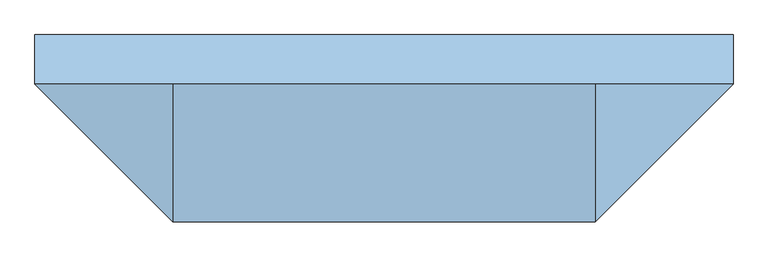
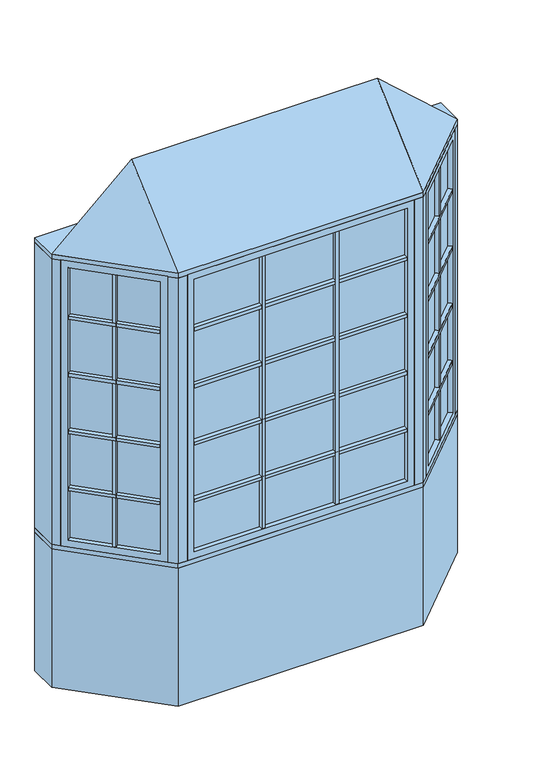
"""IFC4 building model written with IfcOpenShell, lengths in millimetres: window geometry, Pollard_Windows_Tudor Casement Bows and Bays : AML-BAY 45 AFR0616-10-500_GC."""

from ifc_helpers import new_model, si_unit, frame, origin, origin_with_axes, place, context, project, spatial, polyline, outline, extrude, faceted_brep, source, transform, mapped, element, save


def window_0feb7d22(model_context):
    return source(origin(), model_context, "Body", "SolidModel", [
        extrude(outline(polyline([(709.3614193, -437.1108753), (693.8050701, -421.5545261), (1001.616171, -113.7434252), (1017.1725202, -129.2997743), (709.3614193, -437.1108753)])), frame((0.0, 0.0, 1110.998), z_axis=(0.0, 0.0, 1.0), x_axis=(1.0, 0.0, 0.0)), (0.0, 0.0, 1.0), 18.0),
        extrude(outline(polyline([(690.2129677, -417.9624236), (674.6566185, -402.4060744), (982.4677194, -94.5949735), (998.0240686, -110.1513227), (690.2129677, -417.9624236)])), frame((0.0, 0.0, 1110.998), z_axis=(0.0, 0.0, 1.0), x_axis=(1.0, 0.0, 0.0)), (0.0, 0.0, 1.0), 18.0),
        extrude(outline(polyline([(709.3614193, -437.1108753), (693.8050701, -421.5545261), (1001.616171, -113.7434252), (1017.1725202, -129.2997743), (709.3614193, -437.1108753)])), frame((0.0, 0.0, 1430.998), z_axis=(0.0, 0.0, 1.0), x_axis=(1.0, 0.0, 0.0)), (0.0, 0.0, 1.0), 18.0),
        extrude(outline(polyline([(690.2129677, -417.9624236), (674.6566185, -402.4060744), (982.4677194, -94.5949735), (998.0240686, -110.1513227), (690.2129677, -417.9624236)])), frame((0.0, 0.0, 1430.998), z_axis=(0.0, 0.0, 1.0), x_axis=(1.0, 0.0, 0.0)), (0.0, 0.0, 1.0), 18.0),
        extrude(outline(polyline([(709.3614193, -437.1108753), (693.8050701, -421.5545261), (1001.616171, -113.7434252), (1017.1725202, -129.2997743), (709.3614193, -437.1108753)])), frame((0.0, 0.0, 1750.998), z_axis=(0.0, 0.0, 1.0), x_axis=(1.0, 0.0, 0.0)), (0.0, 0.0, 1.0), 18.0),
        extrude(outline(polyline([(690.2129677, -417.9624236), (674.6566185, -402.4060744), (982.4677194, -94.5949735), (998.0240686, -110.1513227), (690.2129677, -417.9624236)])), frame((0.0, 0.0, 1750.998), z_axis=(0.0, 0.0, 1.0), x_axis=(1.0, 0.0, 0.0)), (0.0, 0.0, 1.0), 18.0),
        extrude(outline(polyline([(709.3614193, -437.1108753), (693.8050701, -421.5545261), (1001.616171, -113.7434252), (1017.1725202, -129.2997743), (709.3614193, -437.1108753)])), frame((0.0, 0.0, 2070.998), z_axis=(0.0, 0.0, 1.0), x_axis=(1.0, 0.0, 0.0)), (0.0, 0.0, 1.0), 18.0),
        extrude(outline(polyline([(690.2129677, -417.9624236), (674.6566185, -402.4060744), (982.4677194, -94.5949735), (998.0240686, -110.1513227), (690.2129677, -417.9624236)])), frame((0.0, 0.0, 2070.998), z_axis=(0.0, 0.0, 1.0), x_axis=(1.0, 0.0, 0.0)), (0.0, 0.0, 1.0), 18.0),
        extrude(outline(polyline([(854.0745816, -261.2850146), (869.6309308, -276.8413638), (856.9030087, -289.5692858), (841.3466595, -274.0129366), (854.0745816, -261.2850146)])), frame((0.0, 0.0, 835.8628), z_axis=(0.0, 0.0, 1.0), x_axis=(1.0, 0.0, 0.0)), (0.0, 0.0, 1.0), 1528.2704),
        extrude(outline(polyline([(850.4824791, -257.6929121), (837.7545571, -270.4208342), (822.1982079, -254.864485), (834.92613, -242.1365629), (850.4824791, -257.6929121)])), frame((0.0, 0.0, 835.8628), z_axis=(0.0, 0.0, 1.0), x_axis=(1.0, 0.0, 0.0)), (0.0, 0.0, 1.0), 1528.2704),
        extrude(outline(polyline([(1010.5964271, -104.763169), (684.824814, -430.5347822), (681.2327115, -426.9426797), (1007.0043247, -101.1710666), (1010.5964271, -104.763169)])), frame((0.0, 0.0, 823.1628), z_axis=(0.0, 0.0, 1.0), x_axis=(1.0, 0.0, 0.0)), (0.0, 0.0, 1.0), 1553.6704),
        faceted_brep([(1001.616171, -113.7434252, 835.8628), (1019.5766833, -131.7039374, 835.8628), (1019.5766833, -131.7039374, 2364.1332), (1001.616171, -113.7434252, 2364.1332), (1007.0043247, -101.1710666, 823.1628), (1010.5964271, -104.763169, 823.1628), (1010.5964271, -104.763169, 2376.8332), (1007.0043247, -101.1710666, 2376.8332), (980.0635563, -92.1908105, 835.8628), (998.0240686, -110.1513227, 835.8628), (998.0240686, -110.1513227, 2364.1332), (980.0635563, -92.1908105, 2364.1332), (1044.9369265, -106.3436941, 799.998), (1005.4237996, -66.8305672, 799.998), (1005.4237996, -66.8305672, 2399.998), (1044.9369265, -106.3436941, 2399.998), (711.7655823, -439.5150383, 2364.1332), (693.8050701, -421.5545261, 2364.1332), (684.824814, -430.5347822, 2376.8332), (681.2327115, -426.9426797, 2376.8332), (690.2129677, -417.9624236, 2364.1332), (672.2524554, -400.0019114, 2364.1332), (646.8922121, -425.3621547, 2399.998), (686.4053391, -464.8752816, 2399.998), (711.7655823, -439.5150383, 835.8628), (693.8050701, -421.5545261, 835.8628), (684.824814, -430.5347822, 823.1628), (681.2327115, -426.9426797, 823.1628), (690.2129677, -417.9624236, 835.8628), (672.2524554, -400.0019114, 835.8628), (646.8922121, -425.3621547, 799.998), (686.4053391, -464.8752816, 799.998)], [[[0, 1, 2, 3]], [[4, 5, 6, 7]], [[8, 9, 10, 11]], [[12, 13, 14, 15]], [[3, 2, 16, 17]], [[7, 6, 18, 19]], [[11, 10, 20, 21]], [[15, 14, 22, 23]], [[17, 16, 24, 25]], [[19, 18, 26, 27]], [[21, 20, 28, 29]], [[23, 22, 30, 31]], [[25, 24, 1, 0]], [[5, 26, 18, 6], [3, 17, 25, 0]], [[27, 26, 5, 4]], [[7, 19, 27, 4], [9, 28, 20, 10]], [[29, 28, 9, 8]], [[13, 30, 22, 14], [11, 21, 29, 8]], [[31, 30, 13, 12]], [[15, 23, 31, 12], [1, 24, 16, 2]]]),
        extrude(outline(polyline([(204.6285333, -474.8306207), (204.6285333, -496.8306207), (186.6285333, -496.8306207), (186.6285333, -474.8306207), (204.6285333, -474.8306207)])), frame((0.0, 0.0, 835.8628), z_axis=(0.0, 0.0, 1.0), x_axis=(1.0, 0.0, 0.0)), (0.0, 0.0, 1.0), 1528.2704),
        extrude(outline(polyline([(204.6285333, -469.7506207), (186.6285333, -469.7506207), (186.6285333, -447.7506207), (204.6285333, -447.7506207), (204.6285333, -469.7506207)])), frame((0.0, 0.0, 835.8628), z_axis=(0.0, 0.0, 1.0), x_axis=(1.0, 0.0, 0.0)), (0.0, 0.0, 1.0), 1528.2704),
        extrude(outline(polyline([(-186.6285333, -474.8306207), (-186.6285333, -496.8306207), (-204.6285333, -496.8306207), (-204.6285333, -474.8306207), (-186.6285333, -474.8306207)])), frame((0.0, 0.0, 835.8628), z_axis=(0.0, 0.0, 1.0), x_axis=(1.0, 0.0, 0.0)), (0.0, 0.0, 1.0), 1528.2704),
        extrude(outline(polyline([(-186.6285333, -469.7506207), (-204.6285333, -469.7506207), (-204.6285333, -447.7506207), (-186.6285333, -447.7506207), (-186.6285333, -469.7506207)])), frame((0.0, 0.0, 835.8628), z_axis=(0.0, 0.0, 1.0), x_axis=(1.0, 0.0, 0.0)), (0.0, 0.0, 1.0), 1528.2704),
        extrude(outline(polyline([(-565.1852, -496.8306207), (-565.1852, -474.8306207), (565.1852, -474.8306207), (565.1852, -496.8306207), (-565.1852, -496.8306207)])), frame((0.0, 0.0, 1110.998), z_axis=(0.0, 0.0, 1.0), x_axis=(1.0, 0.0, 0.0)), (0.0, 0.0, 1.0), 18.0),
        extrude(outline(polyline([(-565.1852, -469.7506207), (-565.1852, -447.7506207), (565.1852, -447.7506207), (565.1852, -469.7506207), (-565.1852, -469.7506207)])), frame((0.0, 0.0, 1110.998), z_axis=(0.0, 0.0, 1.0), x_axis=(1.0, 0.0, 0.0)), (0.0, 0.0, 1.0), 18.0),
        extrude(outline(polyline([(-565.1852, -496.8306207), (-565.1852, -474.8306207), (565.1852, -474.8306207), (565.1852, -496.8306207), (-565.1852, -496.8306207)])), frame((0.0, 0.0, 1430.998), z_axis=(0.0, 0.0, 1.0), x_axis=(1.0, 0.0, 0.0)), (0.0, 0.0, 1.0), 18.0),
        extrude(outline(polyline([(-565.1852, -469.7506207), (-565.1852, -447.7506207), (565.1852, -447.7506207), (565.1852, -469.7506207), (-565.1852, -469.7506207)])), frame((0.0, 0.0, 1430.998), z_axis=(0.0, 0.0, 1.0), x_axis=(1.0, 0.0, 0.0)), (0.0, 0.0, 1.0), 18.0),
        extrude(outline(polyline([(-565.1852, -496.8306207), (-565.1852, -474.8306207), (565.1852, -474.8306207), (565.1852, -496.8306207), (-565.1852, -496.8306207)])), frame((0.0, 0.0, 1750.998), z_axis=(0.0, 0.0, 1.0), x_axis=(1.0, 0.0, 0.0)), (0.0, 0.0, 1.0), 18.0),
        extrude(outline(polyline([(-565.1852, -469.7506207), (-565.1852, -447.7506207), (565.1852, -447.7506207), (565.1852, -469.7506207), (-565.1852, -469.7506207)])), frame((0.0, 0.0, 1750.998), z_axis=(0.0, 0.0, 1.0), x_axis=(1.0, 0.0, 0.0)), (0.0, 0.0, 1.0), 18.0),
        extrude(outline(polyline([(-1017.1725202, -129.2997743), (-1001.616171, -113.7434252), (-693.8050701, -421.5545261), (-709.3614193, -437.1108753), (-1017.1725202, -129.2997743)])), frame((0.0, 0.0, 1110.998), z_axis=(0.0, 0.0, 1.0), x_axis=(1.0, 0.0, 0.0)), (0.0, 0.0, 1.0), 18.0),
        extrude(outline(polyline([(-998.0240686, -110.1513227), (-982.4677194, -94.5949735), (-674.6566185, -402.4060744), (-690.2129677, -417.9624236), (-998.0240686, -110.1513227)])), frame((0.0, 0.0, 1110.998), z_axis=(0.0, 0.0, 1.0), x_axis=(1.0, 0.0, 0.0)), (0.0, 0.0, 1.0), 18.0),
        extrude(outline(polyline([(-1017.1725202, -129.2997743), (-1001.616171, -113.7434252), (-693.8050701, -421.5545261), (-709.3614193, -437.1108753), (-1017.1725202, -129.2997743)])), frame((0.0, 0.0, 1430.998), z_axis=(0.0, 0.0, 1.0), x_axis=(1.0, 0.0, 0.0)), (0.0, 0.0, 1.0), 18.0),
        extrude(outline(polyline([(-998.0240686, -110.1513227), (-982.4677194, -94.5949735), (-674.6566185, -402.4060744), (-690.2129677, -417.9624236), (-998.0240686, -110.1513227)])), frame((0.0, 0.0, 1430.998), z_axis=(0.0, 0.0, 1.0), x_axis=(1.0, 0.0, 0.0)), (0.0, 0.0, 1.0), 18.0),
        extrude(outline(polyline([(-1017.1725202, -129.2997743), (-1001.616171, -113.7434252), (-693.8050701, -421.5545261), (-709.3614193, -437.1108753), (-1017.1725202, -129.2997743)])), frame((0.0, 0.0, 1750.998), z_axis=(0.0, 0.0, 1.0), x_axis=(1.0, 0.0, 0.0)), (0.0, 0.0, 1.0), 18.0),
        extrude(outline(polyline([(-998.0240686, -110.1513227), (-982.4677194, -94.5949735), (-674.6566185, -402.4060744), (-690.2129677, -417.9624236), (-998.0240686, -110.1513227)])), frame((0.0, 0.0, 1750.998), z_axis=(0.0, 0.0, 1.0), x_axis=(1.0, 0.0, 0.0)), (0.0, 0.0, 1.0), 18.0),
        extrude(outline(polyline([(-1017.1725202, -129.2997743), (-1001.616171, -113.7434252), (-693.8050701, -421.5545261), (-709.3614193, -437.1108753), (-1017.1725202, -129.2997743)])), frame((0.0, 0.0, 2070.998), z_axis=(0.0, 0.0, 1.0), x_axis=(1.0, 0.0, 0.0)), (0.0, 0.0, 1.0), 18.0),
        extrude(outline(polyline([(-998.0240686, -110.1513227), (-982.4677194, -94.5949735), (-674.6566185, -402.4060744), (-690.2129677, -417.9624236), (-998.0240686, -110.1513227)])), frame((0.0, 0.0, 2070.998), z_axis=(0.0, 0.0, 1.0), x_axis=(1.0, 0.0, 0.0)), (0.0, 0.0, 1.0), 18.0),
        extrude(outline(polyline([(-565.1852, -496.8306207), (-565.1852, -474.8306207), (565.1852, -474.8306207), (565.1852, -496.8306207), (-565.1852, -496.8306207)])), frame((0.0, 0.0, 2070.998), z_axis=(0.0, 0.0, 1.0), x_axis=(1.0, 0.0, 0.0)), (0.0, 0.0, 1.0), 18.0),
        extrude(outline(polyline([(-565.1852, -469.7506207), (-565.1852, -447.7506207), (565.1852, -447.7506207), (565.1852, -469.7506207), (-565.1852, -469.7506207)])), frame((0.0, 0.0, 2070.998), z_axis=(0.0, 0.0, 1.0), x_axis=(1.0, 0.0, 0.0)), (0.0, 0.0, 1.0), 18.0),
        extrude(outline(polyline([(-841.3466595, -274.0129366), (-856.9030087, -289.5692858), (-869.6309308, -276.8413638), (-854.0745816, -261.2850146), (-841.3466595, -274.0129366)])), frame((0.0, 0.0, 835.8628), z_axis=(0.0, 0.0, 1.0), x_axis=(1.0, 0.0, 0.0)), (0.0, 0.0, 1.0), 1528.2704),
        extrude(outline(polyline([(-837.7545571, -270.4208342), (-850.4824791, -257.6929121), (-834.92613, -242.1365629), (-822.1982079, -254.864485), (-837.7545571, -270.4208342)])), frame((0.0, 0.0, 835.8628), z_axis=(0.0, 0.0, 1.0), x_axis=(1.0, 0.0, 0.0)), (0.0, 0.0, 1.0), 1528.2704),
        extrude(outline(polyline([(-684.824814, -430.5347822), (-1010.5964271, -104.763169), (-1007.0043247, -101.1710666), (-681.2327115, -426.9426797), (-684.824814, -430.5347822)])), frame((0.0, 0.0, 823.1628), z_axis=(0.0, 0.0, 1.0), x_axis=(1.0, 0.0, 0.0)), (0.0, 0.0, 1.0), 1553.6704),
        faceted_brep([(-690.2129677, -417.9624236, 2364.1332), (-672.2524554, -400.0019114, 2364.1332), (-672.2524554, -400.0019114, 835.8628), (-690.2129677, -417.9624236, 835.8628), (-684.824814, -430.5347822, 2376.8332), (-681.2327115, -426.9426797, 2376.8332), (-681.2327115, -426.9426797, 823.1628), (-684.824814, -430.5347822, 823.1628), (-711.7655823, -439.5150383, 2364.1332), (-693.8050701, -421.5545261, 2364.1332), (-693.8050701, -421.5545261, 835.8628), (-711.7655823, -439.5150383, 835.8628), (-646.8922121, -425.3621547, 2399.998), (-686.4053391, -464.8752816, 2399.998), (-686.4053391, -464.8752816, 799.998), (-646.8922121, -425.3621547, 799.998), (-980.0635563, -92.1908105, 835.8628), (-998.0240686, -110.1513227, 835.8628), (-1007.0043247, -101.1710666, 823.1628), (-1010.5964271, -104.763169, 823.1628), (-1001.616171, -113.7434252, 835.8628), (-1019.5766833, -131.7039374, 835.8628), (-1044.9369265, -106.3436941, 799.998), (-1005.4237996, -66.8305672, 799.998), (-980.0635563, -92.1908105, 2364.1332), (-998.0240686, -110.1513227, 2364.1332), (-1007.0043247, -101.1710666, 2376.8332), (-1010.5964271, -104.763169, 2376.8332), (-1001.616171, -113.7434252, 2364.1332), (-1019.5766833, -131.7039374, 2364.1332), (-1044.9369265, -106.3436941, 2399.998), (-1005.4237996, -66.8305672, 2399.998)], [[[0, 1, 2, 3]], [[4, 5, 6, 7]], [[8, 9, 10, 11]], [[12, 13, 14, 15]], [[3, 2, 16, 17]], [[7, 6, 18, 19]], [[11, 10, 20, 21]], [[15, 14, 22, 23]], [[17, 16, 24, 25]], [[19, 18, 26, 27]], [[21, 20, 28, 29]], [[23, 22, 30, 31]], [[15, 23, 31, 12], [1, 24, 16, 2]], [[25, 24, 1, 0]], [[5, 26, 18, 6], [3, 17, 25, 0]], [[27, 26, 5, 4]], [[7, 19, 27, 4], [9, 28, 20, 10]], [[29, 28, 9, 8]], [[13, 30, 22, 14], [11, 21, 29, 8]], [[31, 30, 13, 12]]]),
        extrude(outline(polyline([(577.8852, -474.8306207), (-577.8852, -474.8306207), (-577.8852, -469.7506207), (577.8852, -469.7506207), (577.8852, -474.8306207)])), frame((0.0, 0.0, 823.1628), z_axis=(0.0, 0.0, 1.0), x_axis=(1.0, 0.0, 0.0)), (0.0, 0.0, 1.0), 1553.6704),
        faceted_brep([(565.1852, -474.8306207, 835.8628), (565.1852, -500.2306207, 835.8628), (565.1852, -500.2306207, 2364.1332), (565.1852, -474.8306207, 2364.1332), (577.8852, -469.7506207, 823.1628), (577.8852, -474.8306207, 823.1628), (577.8852, -474.8306207, 2376.8332), (577.8852, -469.7506207, 2376.8332), (565.1852, -444.3506207, 835.8628), (565.1852, -469.7506207, 835.8628), (565.1852, -469.7506207, 2364.1332), (565.1852, -444.3506207, 2364.1332), (601.05, -500.2306207, 799.998), (601.05, -444.3506207, 799.998), (601.05, -444.3506207, 2399.998), (601.05, -500.2306207, 2399.998), (-565.1852, -500.2306207, 2364.1332), (-565.1852, -474.8306207, 2364.1332), (-577.8852, -474.8306207, 2376.8332), (-577.8852, -469.7506207, 2376.8332), (-565.1852, -469.7506207, 2364.1332), (-565.1852, -444.3506207, 2364.1332), (-601.05, -444.3506207, 2399.998), (-601.05, -500.2306207, 2399.998), (-565.1852, -500.2306207, 835.8628), (-565.1852, -474.8306207, 835.8628), (-577.8852, -474.8306207, 823.1628), (-577.8852, -469.7506207, 823.1628), (-565.1852, -469.7506207, 835.8628), (-565.1852, -444.3506207, 835.8628), (-601.05, -444.3506207, 799.998), (-601.05, -500.2306207, 799.998)], [[[0, 1, 2, 3]], [[4, 5, 6, 7]], [[8, 9, 10, 11]], [[12, 13, 14, 15]], [[3, 2, 16, 17]], [[7, 6, 18, 19]], [[11, 10, 20, 21]], [[15, 14, 22, 23]], [[17, 16, 24, 25]], [[19, 18, 26, 27]], [[21, 20, 28, 29]], [[23, 22, 30, 31]], [[15, 23, 31, 12], [1, 24, 16, 2]], [[25, 24, 1, 0]], [[5, 26, 18, 6], [3, 17, 25, 0]], [[27, 26, 5, 4]], [[7, 19, 27, 4], [9, 28, 20, 10]], [[29, 28, 9, 8]], [[13, 30, 22, 14], [11, 21, 29, 8]], [[31, 30, 13, 12]]]),
        faceted_brep([(1076.5, -74.7806207, 2425.398), (651.05, -500.2306207, 2425.398), (-651.05, -500.2306207, 2425.398), (-1076.5, -74.7806207, 2425.398), (-651.05, -74.7806207, 2806.398), (651.05, -74.7806207, 2806.398)], [[[0, 1, 2, 3]], [[3, 2, 4]], [[2, 1, 5, 4]], [[1, 0, 5]], [[0, 3, 4, 5]]]),
        extrude(outline(polyline([(-1076.5, 77.6193793), (1076.5, 77.6193793), (1076.5, -74.7806207), (651.05, -500.2306207), (-651.05, -500.2306207), (-1076.5, -74.7806207), (-1076.5, 77.6193793)])), frame((0.0, 0.0, 2399.998), z_axis=(0.0, 0.0, 1.0), x_axis=(1.0, 0.0, 0.0)), (0.0, 0.0, 1.0), 25.4),
        extrude(outline(polyline([(-1076.5, -74.7806207), (-1076.5, 77.6193793), (-1013.3738531, 77.6193793), (-1013.3738531, -74.7806207), (-1044.9369265, -106.3436941), (-1076.5, -74.7806207)])), frame((0.0, 0.0, 799.998), z_axis=(0.0, 0.0, 1.0), x_axis=(1.0, 0.0, 0.0)), (0.0, 0.0, 1.0), 1600.0),
        extrude(outline(polyline([(1076.5, 77.6193793), (1076.5, -74.7806207), (1044.9369265, -106.3436941), (1013.3738531, -74.7806207), (1013.3738531, 77.6193793), (1076.5, 77.6193793)])), frame((0.0, 0.0, 799.998), z_axis=(0.0, 0.0, 1.0), x_axis=(1.0, 0.0, 0.0)), (0.0, 0.0, 1.0), 1600.0),
        extrude(outline(polyline([(651.05, -500.2306207), (601.05, -500.2306207), (601.05, -450.2306207), (630.3393219, -450.2306207), (651.05, -429.5199425), (686.4053391, -464.8752816), (651.05, -500.2306207)])), frame((0.0, 0.0, 799.998), z_axis=(0.0, 0.0, 1.0), x_axis=(1.0, 0.0, 0.0)), (0.0, 0.0, 1.0), 1600.0),
        extrude(outline(polyline([(-651.05, -500.2306207), (-686.4053391, -464.8752816), (-651.05, -429.5199425), (-630.3393219, -450.2306207), (-601.05, -450.2306207), (-601.05, -500.2306207), (-651.05, -500.2306207)])), frame((0.0, 0.0, 799.998), z_axis=(0.0, 0.0, 1.0), x_axis=(1.0, 0.0, 0.0)), (0.0, 0.0, 1.0), 1600.0),
        extrude(outline(polyline([(-651.05, -500.2306207), (-1076.5, -74.7806207), (-1076.5, 77.6193793), (-1013.3738531, 77.6193793), (-587.9238531, -347.8306207), (587.9238531, -347.8306207), (1013.3738531, 77.6193793), (1076.5, 77.6193793), (1076.5, -74.7806207), (651.05, -500.2306207), (-651.05, -500.2306207)])), frame((0.0, 0.0, 774.598), z_axis=(0.0, 0.0, 1.0), x_axis=(1.0, 0.0, 0.0)), (0.0, 0.0, 1.0), 25.4),
        extrude(outline(polyline([(-1076.5, -74.7806207), (-1076.5, 77.6193793), (-1013.3738531, 77.6193793), (-587.9238531, -347.8306207), (587.9238531, -347.8306207), (1013.3738531, 77.6193793), (1076.5, 77.6193793), (1076.5, -74.7806207), (651.05, -500.2306207), (-651.05, -500.2306207), (-1076.5, -74.7806207)])), origin_with_axes(), (0.0, 0.0, 1.0), 774.598),
    ])


if __name__ == "__main__":
    model = new_model("IFC4")
    model_context = context("Model", 3, world=origin())
    ifc_project = project(units=[si_unit("LENGTHUNIT", "METRE", prefix="MILLI")], contexts=[model_context])
    site = spatial("IfcSite", under=ifc_project)
    building = spatial("IfcBuilding", under=site)
    placement = place(None, origin())
    window_shape = window_0feb7d22(model_context)
    element("IfcWindow", 1, ObjectType="Pollard_Windows_Tudor Casement Bows and Bays : AML-BAY 45 AFR0616-10-500_GC", at=placement, inside=building, context=model_context, shape_type="MappedRepresentation", body=[
        mapped(window_shape, transform((0.0, 0.0, 0.0), x_axis=(1.0, 0.0, 0.0), y_axis=(0.0, 1.0, 0.0), z_axis=(0.0, 0.0, 1.0))),
    ])
    save(model, "model.ifc")
